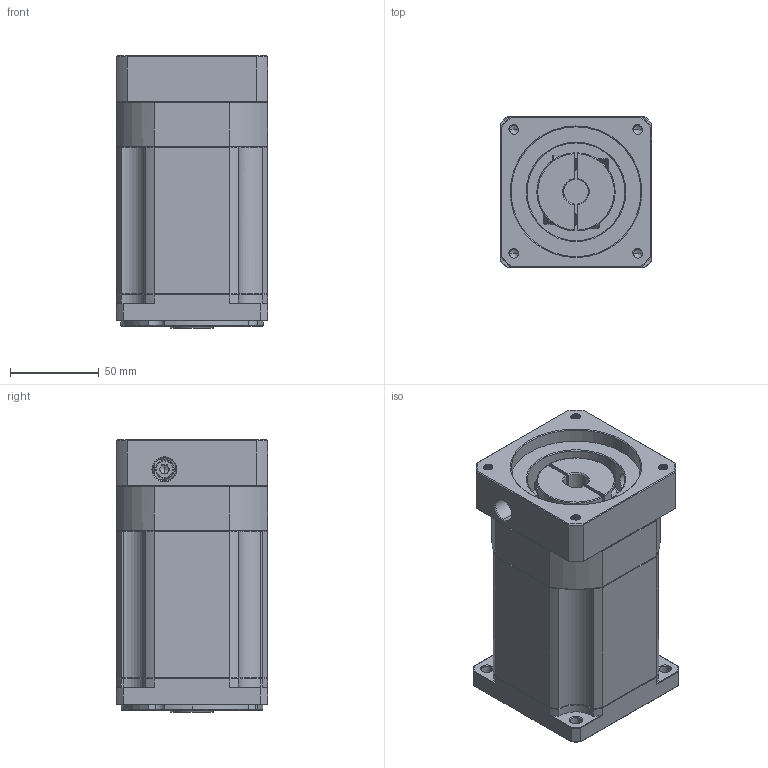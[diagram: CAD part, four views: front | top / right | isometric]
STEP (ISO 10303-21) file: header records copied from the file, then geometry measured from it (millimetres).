
FILE_DESCRIPTION (( 'STEP AP214' ), '1' );
FILE_NAME ('ZB90-K15-L3-14-73-69.5X69.5-M6.STEP', '2022-05-02T15:34:16', ( '' ), ( 'Microsoft' ), 'SwSTEP 2.0', 'SolidWorks 2016', '' );
FILE_SCHEMA (( 'AUTOMOTIVE_DESIGN' ));
Length unit declared in the file: millimetre
Products named in the file (1): ZB90-K15-L3-14-73-69.5X69.5-M6
Bounding box: 85 x 85 x 153 mm (x, y, z)
Volume: 894290 mm3; surface area: 99522.9 mm2
Topology: 4 solids, 5 shells, 1882 faces, 4918 edges, 3115 vertices
Faces by surface type: plane 879, cylinder 358, cone 328, bspline 292, torus 25
Entity records: 98998 total; most frequent: CARTESIAN_POINT 34524, ORIENTED_EDGE 9796, DIRECTION 8001, EDGE_CURVE 4898, VERTEX_POINT 3115, LINE 3045, VECTOR 3045, AXIS2_PLACEMENT_3D 2478
